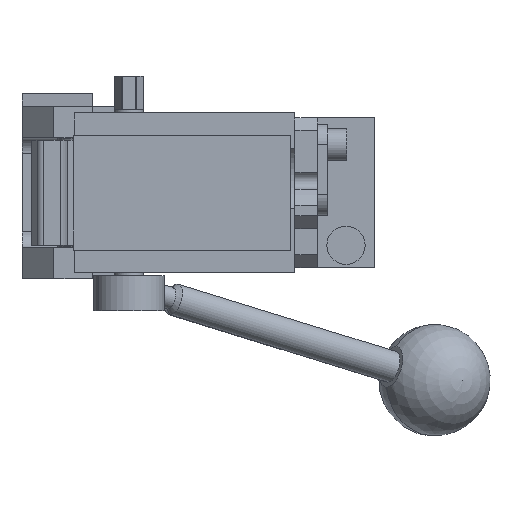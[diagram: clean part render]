
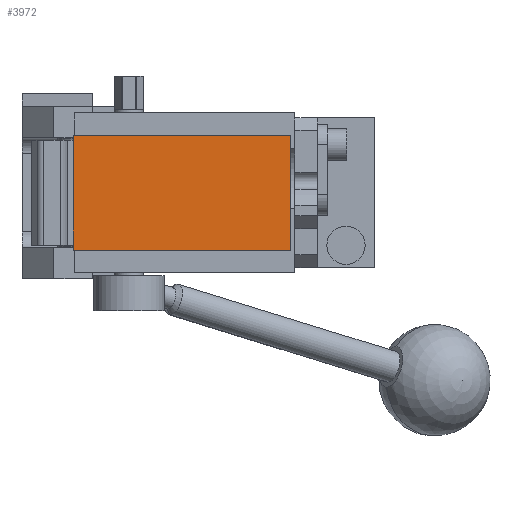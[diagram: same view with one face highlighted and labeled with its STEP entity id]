
A CAD part, front view. The second image highlights one B-rep face of the part: STEP entity #3972.
In plain terms, the highlighted planar face has unit normal (0, -1, 0).
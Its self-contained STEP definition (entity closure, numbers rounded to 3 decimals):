
#206 = CARTESIAN_POINT ( 'NONE',  ( 62., -233., -18. ) ) ;
#475 = ORIENTED_EDGE ( 'NONE', *, *, #10950, .T. ) ;
#713 = VECTOR ( 'NONE', #4484, 1000. ) ;
#892 = CARTESIAN_POINT ( 'NONE',  ( -6., -233., 18. ) ) ;
#1365 = VERTEX_POINT ( 'NONE', #892 ) ;
#1408 = PLANE ( 'NONE',  #13481 ) ;
#2271 = DIRECTION ( 'NONE',  ( 0., 0., 1. ) ) ;
#2409 = ORIENTED_EDGE ( 'NONE', *, *, #15070, .T. ) ;
#2650 = CARTESIAN_POINT ( 'NONE',  ( -6., -233., -18. ) ) ;
#2773 = VECTOR ( 'NONE', #2271, 1000. ) ;
#2864 = EDGE_CURVE ( 'NONE', #1365, #10606, #8092, .T. ) ;
#3161 = CARTESIAN_POINT ( 'NONE',  ( -6., -233., 18. ) ) ;
#3316 = VERTEX_POINT ( 'NONE', #12194 ) ;
#3459 = CARTESIAN_POINT ( 'NONE',  ( -6., -233., -18. ) ) ;
#3972 = ADVANCED_FACE ( 'NONE', ( #4126 ), #1408, .T. ) ;
#4126 = FACE_OUTER_BOUND ( 'NONE', #4850, .T. ) ;
#4199 = ORIENTED_EDGE ( 'NONE', *, *, #15367, .T. ) ;
#4264 = LINE ( 'NONE', #8835, #7198 ) ;
#4484 = DIRECTION ( 'NONE',  ( 0., 0., -1. ) ) ;
#4776 = VERTEX_POINT ( 'NONE', #206 ) ;
#4850 = EDGE_LOOP ( 'NONE', ( #11848, #2409, #4199, #475 ) ) ;
#5929 = CARTESIAN_POINT ( 'NONE',  ( 62., -233., 18. ) ) ;
#6550 = CARTESIAN_POINT ( 'NONE',  ( 0., -233., 0. ) ) ;
#7198 = VECTOR ( 'NONE', #13943, 1000. ) ;
#7348 = LINE ( 'NONE', #5929, #2773 ) ;
#7387 = LINE ( 'NONE', #3459, #10241 ) ;
#8092 = LINE ( 'NONE', #3161, #713 ) ;
#8835 = CARTESIAN_POINT ( 'NONE',  ( -6., -233., 18. ) ) ;
#9914 = DIRECTION ( 'NONE',  ( 1., 0., 0. ) ) ;
#10241 = VECTOR ( 'NONE', #9914, 1000. ) ;
#10606 = VERTEX_POINT ( 'NONE', #2650 ) ;
#10950 = EDGE_CURVE ( 'NONE', #3316, #1365, #4264, .T. ) ;
#11848 = ORIENTED_EDGE ( 'NONE', *, *, #2864, .T. ) ;
#12194 = CARTESIAN_POINT ( 'NONE',  ( 62., -233., 18. ) ) ;
#12855 = DIRECTION ( 'NONE',  ( 0., 0., -1. ) ) ;
#13481 = AXIS2_PLACEMENT_3D ( 'NONE', #6550, #14357, #12855 ) ;
#13943 = DIRECTION ( 'NONE',  ( -1., 0., 0. ) ) ;
#14357 = DIRECTION ( 'NONE',  ( 0., -1., 0. ) ) ;
#15070 = EDGE_CURVE ( 'NONE', #10606, #4776, #7387, .T. ) ;
#15367 = EDGE_CURVE ( 'NONE', #4776, #3316, #7348, .T. ) ;
